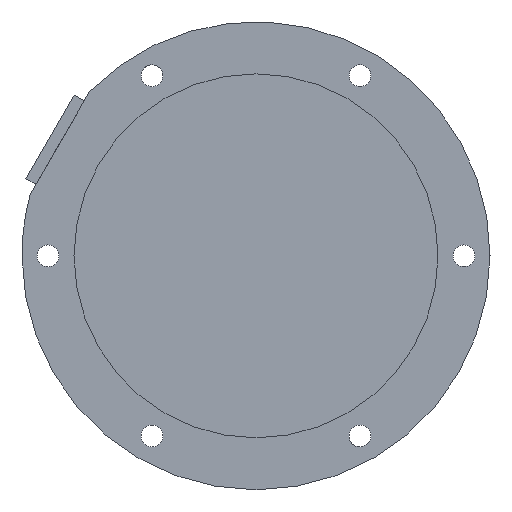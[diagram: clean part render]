
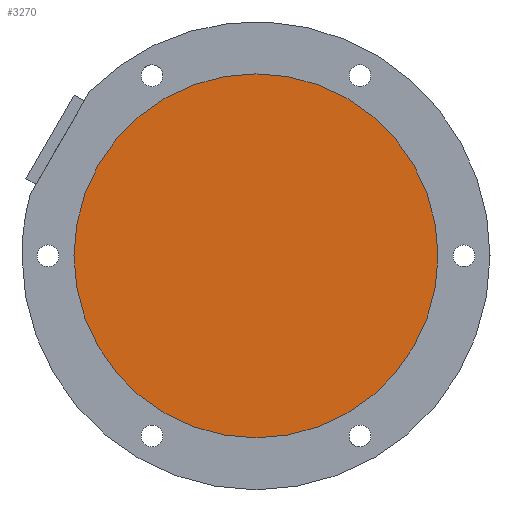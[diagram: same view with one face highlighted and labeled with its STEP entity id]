
A CAD part, front view. The second image highlights one B-rep face of the part: STEP entity #3270.
In plain terms, the highlighted planar face has unit normal (0, -1, 0).
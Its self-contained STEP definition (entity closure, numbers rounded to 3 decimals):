
#3030=CARTESIAN_POINT('Vertex',(70.,1928.,2030.)) ;
#3037=CARTESIAN_POINT('Vertex',(-70.,1928.,2030.)) ;
#3040=CARTESIAN_POINT('Axis2P3D Location',(0.,1928.,2030.)) ;
#3057=CARTESIAN_POINT('Axis2P3D Location',(0.,1928.,2030.)) ;
#3261=CARTESIAN_POINT('Axis2P3D Location',(0.,1928.,2030.)) ;
#3041=DIRECTION('Axis2P3D Direction',(0.,1.,0.)) ;
#3058=DIRECTION('Axis2P3D Direction',(0.,1.,0.)) ;
#3262=DIRECTION('Axis2P3D Direction',(0.,1.,-0.)) ;
#3263=DIRECTION('Axis2P3D XDirection',(0.,0.,1.)) ;
#3042=AXIS2_PLACEMENT_3D('Circle Axis2P3D',#3040,#3041,$) ;
#3059=AXIS2_PLACEMENT_3D('Circle Axis2P3D',#3057,#3058,$) ;
#3264=AXIS2_PLACEMENT_3D('Plane Axis2P3D',#3261,#3262,#3263) ;
#3267=ORIENTED_EDGE('',*,*,#3044,.F.) ;
#3268=ORIENTED_EDGE('',*,*,#3061,.F.) ;
#3270=ADVANCED_FACE('PartBody',(#3269),#3265,.F.) ;
#3043=CIRCLE('generated circle',#3042,70.) ;
#3060=CIRCLE('generated circle',#3059,70.) ;
#3044=EDGE_CURVE('',#3038,#3031,#3043,.T.) ;
#3061=EDGE_CURVE('',#3031,#3038,#3060,.T.) ;
#3266=EDGE_LOOP('',(#3267,#3268)) ;
#3269=FACE_OUTER_BOUND('',#3266,.T.) ;
#3265=PLANE('',#3264) ;
#3031=VERTEX_POINT('',#3030) ;
#3038=VERTEX_POINT('',#3037) ;
